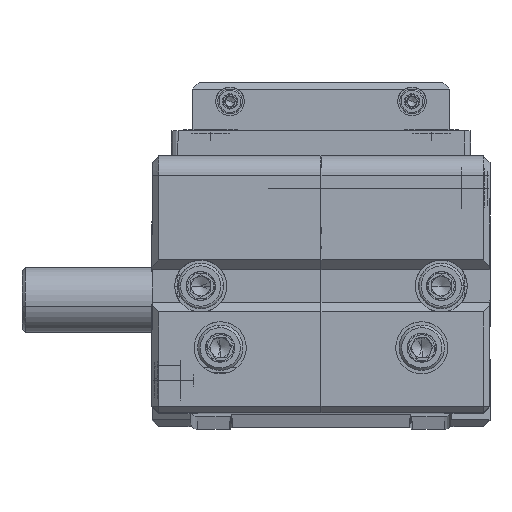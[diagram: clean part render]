
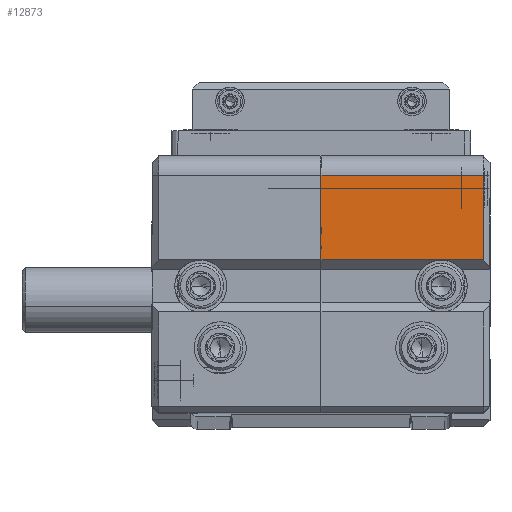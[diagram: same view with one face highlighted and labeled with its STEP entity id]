
A CAD part, top view. The second image highlights one B-rep face of the part: STEP entity #12873.
In plain terms, the highlighted planar face has unit normal (0, 0, 1).
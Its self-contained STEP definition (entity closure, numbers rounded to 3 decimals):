
#1130 = CARTESIAN_POINT ( 'NONE',  ( -64.289, 14.828, 769.463 ) ) ;
#1393 = DIRECTION ( 'NONE',  ( 0., 0., -1. ) ) ;
#3991 = ORIENTED_EDGE ( 'NONE', *, *, #12467, .T. ) ;
#4765 = EDGE_CURVE ( 'NONE', #26054, #18921, #29429, .T. ) ;
#5040 = DIRECTION ( 'NONE',  ( -1., 0., 0. ) ) ;
#5816 = VECTOR ( 'NONE', #16969, 1000. ) ;
#7035 = ORIENTED_EDGE ( 'NONE', *, *, #34070, .F. ) ;
#7722 = ORIENTED_EDGE ( 'NONE', *, *, #48849, .T. ) ;
#9922 = DIRECTION ( 'NONE',  ( 1., 0., 0. ) ) ;
#10297 = CARTESIAN_POINT ( 'NONE',  ( -90.289, 27.828, 769.463 ) ) ;
#11000 = ORIENTED_EDGE ( 'NONE', *, *, #32373, .T. ) ;
#11843 = VERTEX_POINT ( 'NONE', #30931 ) ;
#12467 = EDGE_CURVE ( 'NONE', #11843, #26054, #50128, .T. ) ;
#12752 = FACE_OUTER_BOUND ( 'NONE', #48019, .T. ) ;
#12873 = ADVANCED_FACE ( 'NONE', ( #12752 ), #41907, .F. ) ;
#12908 = CARTESIAN_POINT ( 'NONE',  ( -90.289, 27.828, 769.463 ) ) ;
#13270 = CARTESIAN_POINT ( 'NONE',  ( -65.289, 14.828, 769.463 ) ) ;
#16481 = LINE ( 'NONE', #30285, #36456 ) ;
#16969 = DIRECTION ( 'NONE',  ( 1., 0., 0. ) ) ;
#17912 = VECTOR ( 'NONE', #9922, 1000. ) ;
#18921 = VERTEX_POINT ( 'NONE', #19507 ) ;
#19507 = CARTESIAN_POINT ( 'NONE',  ( -65.289, 27.828, 769.463 ) ) ;
#25244 = ORIENTED_EDGE ( 'NONE', *, *, #4765, .T. ) ;
#25847 = CARTESIAN_POINT ( 'NONE',  ( -90.289, 10.828, 769.463 ) ) ;
#26054 = VERTEX_POINT ( 'NONE', #13270 ) ;
#27021 = DIRECTION ( 'NONE',  ( 0., 1., 0. ) ) ;
#27910 = LINE ( 'NONE', #12908, #37636 ) ;
#28106 = DIRECTION ( 'NONE',  ( 0., 1., 0. ) ) ;
#29429 = LINE ( 'NONE', #43800, #50078 ) ;
#29985 = DIRECTION ( 'NONE',  ( -1., 0., 0. ) ) ;
#30285 = CARTESIAN_POINT ( 'NONE',  ( -90.289, -12.974, 769.463 ) ) ;
#30931 = CARTESIAN_POINT ( 'NONE',  ( -71.789, 14.828, 769.463 ) ) ;
#32373 = EDGE_CURVE ( 'NONE', #51283, #11843, #37969, .T. ) ;
#33459 = VERTEX_POINT ( 'NONE', #10297 ) ;
#34070 = EDGE_CURVE ( 'NONE', #51283, #33459, #16481, .T. ) ;
#34533 = CARTESIAN_POINT ( 'NONE',  ( -64.289, 14.828, 769.463 ) ) ;
#36456 = VECTOR ( 'NONE', #27021, 1000. ) ;
#37636 = VECTOR ( 'NONE', #5040, 1000. ) ;
#37969 = LINE ( 'NONE', #1130, #5816 ) ;
#41907 = PLANE ( 'NONE',  #42145 ) ;
#42145 = AXIS2_PLACEMENT_3D ( 'NONE', #25847, #1393, #29985 ) ;
#43800 = CARTESIAN_POINT ( 'NONE',  ( -65.289, 10.828, 769.463 ) ) ;
#45055 = CARTESIAN_POINT ( 'NONE',  ( -90.289, 14.828, 769.463 ) ) ;
#48019 = EDGE_LOOP ( 'NONE', ( #11000, #3991, #25244, #7722, #7035 ) ) ;
#48849 = EDGE_CURVE ( 'NONE', #18921, #33459, #27910, .T. ) ;
#50078 = VECTOR ( 'NONE', #28106, 1000. ) ;
#50128 = LINE ( 'NONE', #34533, #17912 ) ;
#51283 = VERTEX_POINT ( 'NONE', #45055 ) ;
